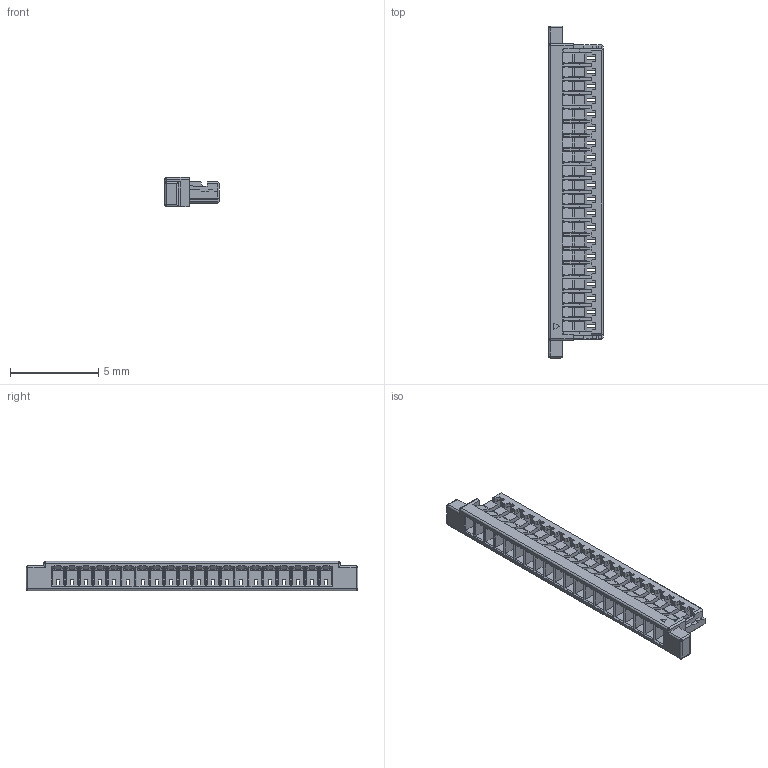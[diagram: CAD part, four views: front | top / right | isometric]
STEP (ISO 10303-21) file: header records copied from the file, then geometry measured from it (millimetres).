
FILE_DESCRIPTION((''),'2;1');
FILE_NAME('SCT0801H-20','2023-04-10T17:18:01',('Administrator'),(''),'CREO PARAMETRIC BY PTC INC, 2018050','CREO PARAMETRIC BY PTC INC, 2018050','');
FILE_SCHEMA(('CONFIG_CONTROL_DESIGN'));
Length unit declared in the file: millimetre
Products named in the file (1): SCT0801H-20
Bounding box: 3.1 x 18.8 x 1.65 mm (x, y, z)
Volume: 33.7 mm3; surface area: 352 mm2
Topology: 1 solids, 1 shells, 978 faces, 2715 edges, 1670 vertices
Faces by surface type: plane 886, cylinder 80, sphere 12
Entity records: 30506 total; most frequent: CARTESIAN_POINT 5697, ORIENTED_EDGE 5410, DIRECTION 4707, EDGE_CURVE 2705, VECTOR 2517, LINE 2517, VERTEX_POINT 1670, AXIS2_PLACEMENT_3D 1095
